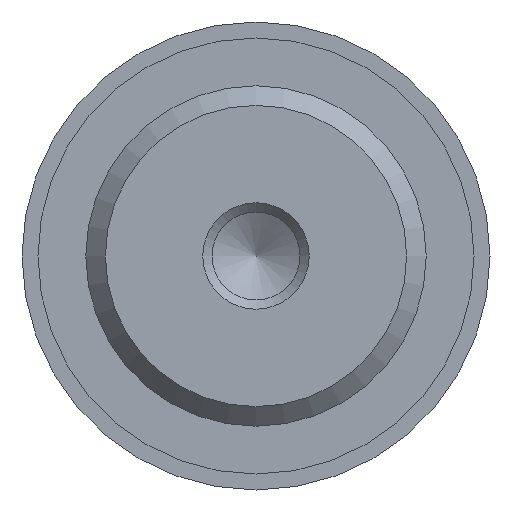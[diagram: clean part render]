
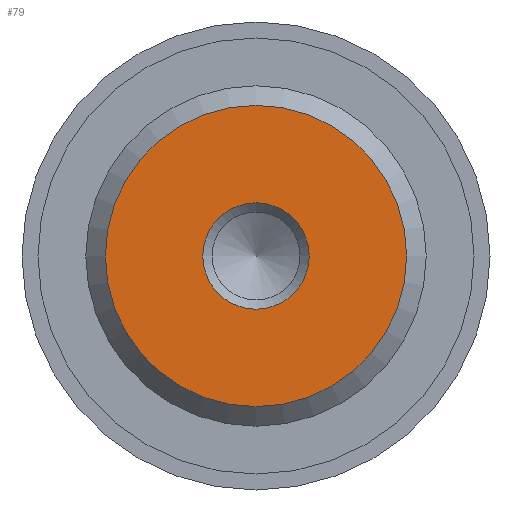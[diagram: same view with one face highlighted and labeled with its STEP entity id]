
A CAD part, front view. The second image highlights one B-rep face of the part: STEP entity #79.
In plain terms, the highlighted planar face has unit normal (0, -1, 0).
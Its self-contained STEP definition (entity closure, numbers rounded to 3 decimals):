
#79 = ADVANCED_FACE( '', ( #139, #140 ), #141, .F. );
#139 = FACE_BOUND( '', #257, .T. );
#140 = FACE_OUTER_BOUND( '', #258, .T. );
#141 = PLANE( '', #259 );
#257 = EDGE_LOOP( '', ( #387 ) );
#258 = EDGE_LOOP( '', ( #388 ) );
#259 = AXIS2_PLACEMENT_3D( '', #389, #390, #391 );
#387 = ORIENTED_EDGE( '', *, *, #758, .F. );
#388 = ORIENTED_EDGE( '', *, *, #762, .T. );
#389 = CARTESIAN_POINT( '', ( 7.08, 0., 0. ) );
#390 = DIRECTION( '', ( 0., 1., 0. ) );
#391 = DIRECTION( '', ( 0., 0., 1. ) );
#758 = EDGE_CURVE( '', #880, #880, #881, .T. );
#762 = EDGE_CURVE( '', #886, #886, #887, .T. );
#880 = VERTEX_POINT( '', #1090 );
#881 = CIRCLE( '', #1091, 2.5 );
#886 = VERTEX_POINT( '', #1096 );
#887 = CIRCLE( '', #1097, 7.08 );
#1090 = CARTESIAN_POINT( '', ( 2.5, 0., 0. ) );
#1091 = AXIS2_PLACEMENT_3D( '', #1434, #1435, #1436 );
#1096 = CARTESIAN_POINT( '', ( 0., 0., -7.08 ) );
#1097 = AXIS2_PLACEMENT_3D( '', #1443, #1444, #1445 );
#1434 = CARTESIAN_POINT( '', ( 0., 0., 0. ) );
#1435 = DIRECTION( '', ( 0., -1., 0. ) );
#1436 = DIRECTION( '', ( 1., 0., 0. ) );
#1443 = CARTESIAN_POINT( '', ( 0., 0., 0. ) );
#1444 = DIRECTION( '', ( 0., -1., 0. ) );
#1445 = DIRECTION( '', ( 0., 0., -1. ) );
